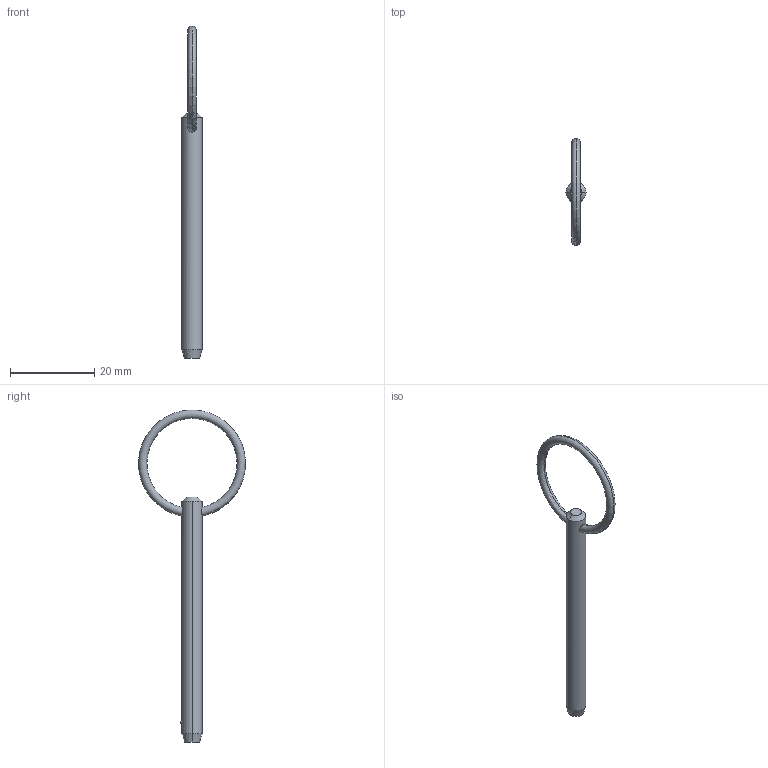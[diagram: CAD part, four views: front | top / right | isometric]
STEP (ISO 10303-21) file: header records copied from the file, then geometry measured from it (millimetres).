
FILE_DESCRIPTION (( 'STEP AP203' ), '1' );
FILE_NAME ('P1250.018-190.step', '2019-07-29T19:32:50', ( '' ), ( '' ), 'SwSTEP 2.0', 'SolidWorks 2017', '' );
FILE_SCHEMA (( 'CONFIG_CONTROL_DESIGN' ));
Length unit declared in the file: millimetre
Products named in the file (1): P1250.018-190
Bounding box: 4.76 x 25.4 x 78.78 mm (x, y, z)
Volume: 1236.8 mm3; surface area: 1312.3 mm2
Topology: 1 solids, 1 shells, 12 faces, 28 edges, 17 vertices
Faces by surface type: cone 4, torus 2, sphere 2, cylinder 2, plane 2
Entity records: 471 total; most frequent: CARTESIAN_POINT 138, DIRECTION 56, ORIENTED_EDGE 48, AXIS2_PLACEMENT_3D 25, EDGE_CURVE 24, EDGE_LOOP 15, VERTEX_POINT 15, CIRCLE 12
